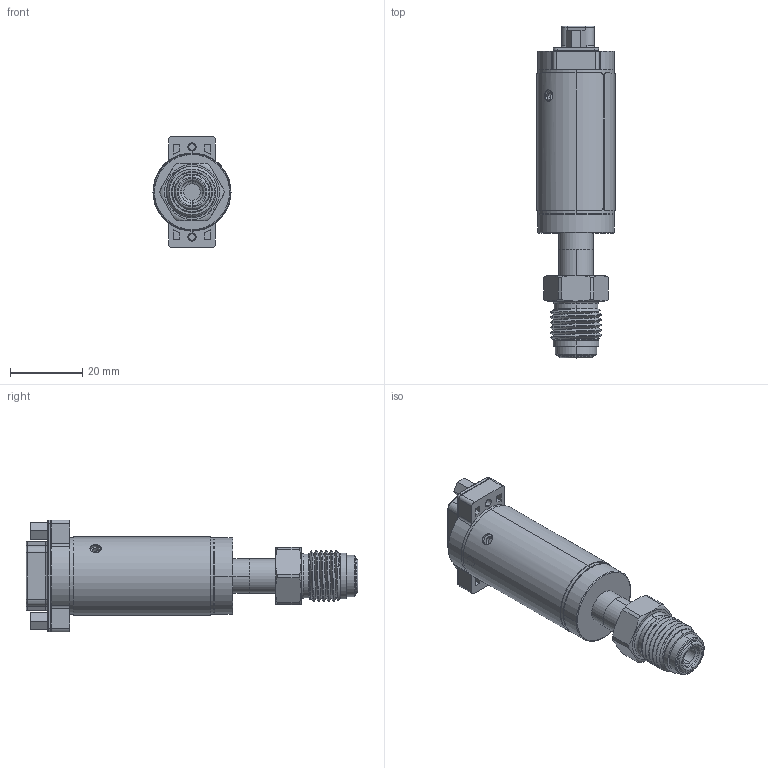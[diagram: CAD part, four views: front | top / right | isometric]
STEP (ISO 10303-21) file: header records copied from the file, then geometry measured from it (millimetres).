
FILE_DESCRIPTION (( 'STEP AP203' ), '1' );
FILE_NAME ('GFD-D-SM.STEP', '2026-08-19T14:29:03', ( '' ), ( '' ), 'SwSTEP 2.0', 'SolidWorks 2023', '' );
FILE_SCHEMA (( 'CONFIG_CONTROL_DESIGN' ));
Length unit declared in the file: inch
Products named in the file (7): GFD-D-SM; 333124_A333124002; 315Z104; ME131193; C17417; 332772; D
Assembly tree (6 placements, depth 2):
  GFD-D-SM
    332772
    C17417
    D
    333124_A333124002
    ME131193
    315Z104
Bounding box: 21.69 x 92.09 x 31 mm (x, y, z)
Volume: 13759 mm3; surface area: 22752.6 mm2
Topology: 12 solids, 13 shells, 684 faces, 1660 edges, 1020 vertices
Faces by surface type: cylinder 334, plane 197, cone 57, torus 50, sphere 35, bspline 11
Entity records: 23177 total; most frequent: CARTESIAN_POINT 6667, DIRECTION 3430, ORIENTED_EDGE 3184, EDGE_CURVE 1592, AXIS2_PLACEMENT_3D 1350, VERTEX_POINT 990, EDGE_LOOP 776, LINE 730
